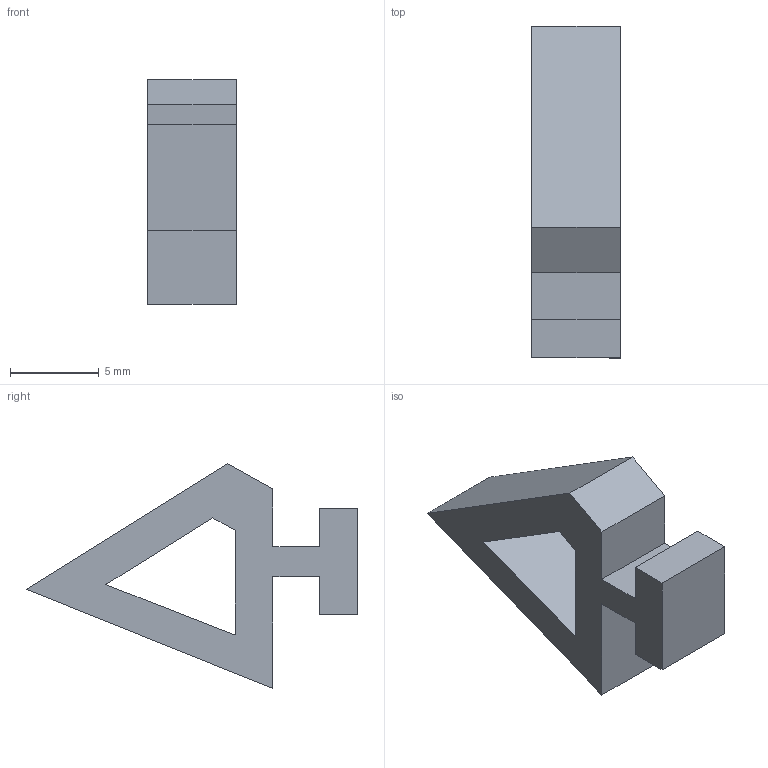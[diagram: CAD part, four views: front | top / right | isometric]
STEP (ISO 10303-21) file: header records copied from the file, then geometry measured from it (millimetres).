
FILE_DESCRIPTION(/* description */ (''),/* implementation_level */ '2;1');
FILE_NAME(/* name */ 'RMP Slim Case Stand.step',/* time_stamp */ '2023-01-13T09:44:34+11:00',/* author */ (''),/* organization */ (''),/* preprocessor_version */ 'ST-DEVELOPER v19.2',/* originating_system */ 'Autodesk Translation Framework v11.17.0.187',/* authorisation */ '');
FILE_SCHEMA (('AUTOMOTIVE_DESIGN { 1 0 10303 214 3 1 1 }'));
Length unit declared in the file: millimetre
Products named in the file (2): RMP Case V2 SLIM; Case_SLIM
Assembly tree (2 placements, depth 2):
  RMP Case V2 SLIM
    Case_SLIM  x2
Bounding box: 5 x 18.72 x 12.67 mm (x, y, z)
Volume: 867.2 mm3; surface area: 1177.3 mm2
Topology: 2 solids, 2 shells, 38 faces, 102 edges, 68 vertices
Faces by surface type: plane 38
Entity records: 671 total; most frequent: CARTESIAN_POINT 108, ORIENTED_EDGE 102, DIRECTION 97, LINE 51, VECTOR 51, EDGE_CURVE 51, VERTEX_POINT 34, AXIS2_PLACEMENT_3D 23
